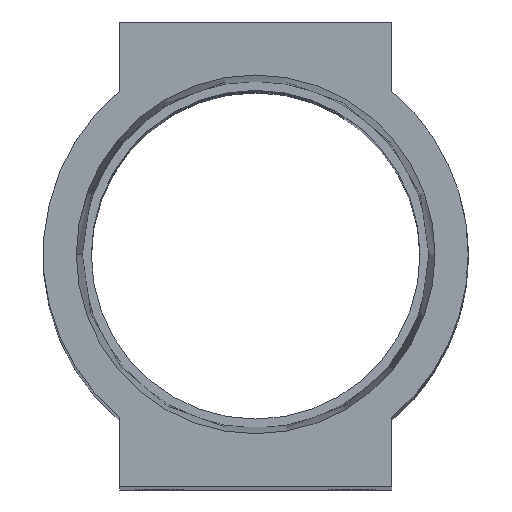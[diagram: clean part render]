
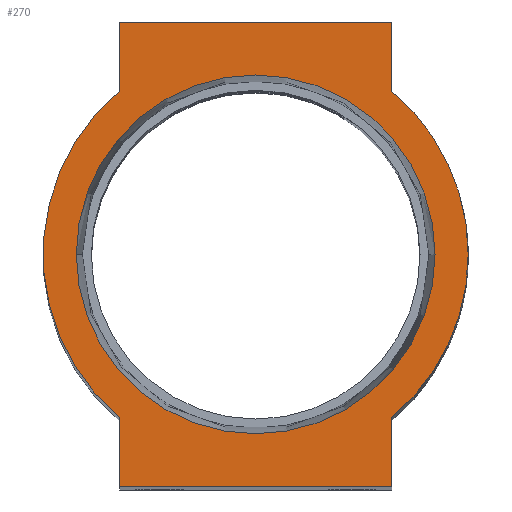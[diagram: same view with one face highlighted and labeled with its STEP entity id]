
A CAD part, top view. The second image highlights one B-rep face of the part: STEP entity #270.
In plain terms, the highlighted planar face has unit normal (0, 0, 1).
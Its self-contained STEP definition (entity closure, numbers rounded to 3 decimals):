
#102 = CARTESIAN_POINT ( 'NONE',  ( -15.827, 0., 0. ) ) ;
#199 = CIRCLE ( 'NONE', #399, 15.827 ) ;
#216 = DIRECTION ( 'NONE',  ( 0., 1., 0. ) ) ;
#270 = ADVANCED_FACE ( 'NONE', ( #11742, #5366 ), #6311, .T. ) ;
#399 = AXIS2_PLACEMENT_3D ( 'NONE', #3234, #8648, #508 ) ;
#474 = CIRCLE ( 'NONE', #10428, 18.75 ) ;
#508 = DIRECTION ( 'NONE',  ( 1., 0., 0. ) ) ;
#560 = VERTEX_POINT ( 'NONE', #3343 ) ;
#636 = CIRCLE ( 'NONE', #6023, 18.75 ) ;
#749 = DIRECTION ( 'NONE',  ( 0., -1., 0. ) ) ;
#781 = DIRECTION ( 'NONE',  ( 1., 0., 0. ) ) ;
#784 = EDGE_CURVE ( 'NONE', #10368, #560, #3948, .T. ) ;
#926 = CARTESIAN_POINT ( 'NONE',  ( -12., 20.5, 0. ) ) ;
#1042 = CIRCLE ( 'NONE', #8319, 18.75 ) ;
#1415 = DIRECTION ( 'NONE',  ( 0., 0., 1. ) ) ;
#1553 = DIRECTION ( 'NONE',  ( 0., -1., 0. ) ) ;
#1640 = DIRECTION ( 'NONE',  ( -1., 0., 0. ) ) ;
#1759 = ORIENTED_EDGE ( 'NONE', *, *, #4911, .T. ) ;
#2046 = CARTESIAN_POINT ( 'NONE',  ( -12., -14.407, 0. ) ) ;
#2213 = EDGE_CURVE ( 'NONE', #8130, #6543, #10503, .T. ) ;
#2218 = CARTESIAN_POINT ( 'NONE',  ( 12., -20.5, 0. ) ) ;
#2301 = ORIENTED_EDGE ( 'NONE', *, *, #10218, .T. ) ;
#2394 = ORIENTED_EDGE ( 'NONE', *, *, #9271, .T. ) ;
#2742 = ORIENTED_EDGE ( 'NONE', *, *, #784, .T. ) ;
#2779 = ORIENTED_EDGE ( 'NONE', *, *, #2851, .F. ) ;
#2851 = EDGE_CURVE ( 'NONE', #6110, #6079, #199, .T. ) ;
#3140 = ORIENTED_EDGE ( 'NONE', *, *, #2213, .T. ) ;
#3175 = CARTESIAN_POINT ( 'NONE',  ( 0., 0., 0. ) ) ;
#3234 = CARTESIAN_POINT ( 'NONE',  ( 0., 0., 0. ) ) ;
#3295 = DIRECTION ( 'NONE',  ( 1., 0., 0. ) ) ;
#3343 = CARTESIAN_POINT ( 'NONE',  ( 12., 20.5, 0. ) ) ;
#3357 = CARTESIAN_POINT ( 'NONE',  ( 0., 0., 0. ) ) ;
#3363 = EDGE_CURVE ( 'NONE', #5377, #7568, #10765, .T. ) ;
#3561 = ORIENTED_EDGE ( 'NONE', *, *, #3363, .T. ) ;
#3647 = CARTESIAN_POINT ( 'NONE',  ( 0., 0., 0. ) ) ;
#3919 = CARTESIAN_POINT ( 'NONE',  ( 12., 14.407, 0. ) ) ;
#3948 = LINE ( 'NONE', #11262, #6705 ) ;
#4045 = VECTOR ( 'NONE', #1553, 1000. ) ;
#4220 = LINE ( 'NONE', #2218, #9079 ) ;
#4284 = CIRCLE ( 'NONE', #4488, 15.827 ) ;
#4411 = CARTESIAN_POINT ( 'NONE',  ( -12., -20.5, 0. ) ) ;
#4488 = AXIS2_PLACEMENT_3D ( 'NONE', #6112, #1415, #5893 ) ;
#4591 = VECTOR ( 'NONE', #1640, 1000. ) ;
#4844 = VERTEX_POINT ( 'NONE', #7951 ) ;
#4911 = EDGE_CURVE ( 'NONE', #7568, #4844, #4220, .T. ) ;
#5366 = FACE_OUTER_BOUND ( 'NONE', #6672, .T. ) ;
#5377 = VERTEX_POINT ( 'NONE', #7927 ) ;
#5436 = VERTEX_POINT ( 'NONE', #2046 ) ;
#5809 = CARTESIAN_POINT ( 'NONE',  ( 12., -20.5, 0. ) ) ;
#5828 = AXIS2_PLACEMENT_3D ( 'NONE', #3357, #8985, #781 ) ;
#5893 = DIRECTION ( 'NONE',  ( 1., 0., 0. ) ) ;
#5936 = LINE ( 'NONE', #8670, #10957 ) ;
#6023 = AXIS2_PLACEMENT_3D ( 'NONE', #9863, #10760, #10100 ) ;
#6079 = VERTEX_POINT ( 'NONE', #6360 ) ;
#6110 = VERTEX_POINT ( 'NONE', #102 ) ;
#6112 = CARTESIAN_POINT ( 'NONE',  ( 0., 0., 0. ) ) ;
#6221 = CARTESIAN_POINT ( 'NONE',  ( 18.75, 0., 0. ) ) ;
#6311 = PLANE ( 'NONE',  #5828 ) ;
#6360 = CARTESIAN_POINT ( 'NONE',  ( 15.827, 0., 0. ) ) ;
#6543 = VERTEX_POINT ( 'NONE', #10408 ) ;
#6672 = EDGE_LOOP ( 'NONE', ( #2742, #2394, #3140, #10695, #9089, #3561, #1759, #2301, #9565 ) ) ;
#6705 = VECTOR ( 'NONE', #216, 1000. ) ;
#6847 = CARTESIAN_POINT ( 'NONE',  ( -12., 20.5, 0. ) ) ;
#6996 = DIRECTION ( 'NONE',  ( 0., 1., 0. ) ) ;
#7253 = ORIENTED_EDGE ( 'NONE', *, *, #8039, .F. ) ;
#7321 = EDGE_CURVE ( 'NONE', #5436, #5377, #5936, .T. ) ;
#7568 = VERTEX_POINT ( 'NONE', #5809 ) ;
#7708 = VECTOR ( 'NONE', #10878, 1000. ) ;
#7927 = CARTESIAN_POINT ( 'NONE',  ( -12., -20.5, 0. ) ) ;
#7951 = CARTESIAN_POINT ( 'NONE',  ( 12., -14.407, 0. ) ) ;
#8039 = EDGE_CURVE ( 'NONE', #6079, #6110, #4284, .T. ) ;
#8130 = VERTEX_POINT ( 'NONE', #926 ) ;
#8319 = AXIS2_PLACEMENT_3D ( 'NONE', #3175, #10459, #3295 ) ;
#8648 = DIRECTION ( 'NONE',  ( 0., 0., 1. ) ) ;
#8670 = CARTESIAN_POINT ( 'NONE',  ( -12., -20.5, 0. ) ) ;
#8706 = EDGE_CURVE ( 'NONE', #6543, #5436, #474, .T. ) ;
#8985 = DIRECTION ( 'NONE',  ( 0., 0., 1. ) ) ;
#9079 = VECTOR ( 'NONE', #6996, 1000. ) ;
#9089 = ORIENTED_EDGE ( 'NONE', *, *, #7321, .T. ) ;
#9176 = DIRECTION ( 'NONE',  ( 0., 0., 1. ) ) ;
#9271 = EDGE_CURVE ( 'NONE', #560, #8130, #10872, .T. ) ;
#9565 = ORIENTED_EDGE ( 'NONE', *, *, #10979, .T. ) ;
#9601 = EDGE_LOOP ( 'NONE', ( #7253, #2779 ) ) ;
#9863 = CARTESIAN_POINT ( 'NONE',  ( 0., 0., 0. ) ) ;
#10100 = DIRECTION ( 'NONE',  ( 1., 0., 0. ) ) ;
#10210 = VERTEX_POINT ( 'NONE', #6221 ) ;
#10218 = EDGE_CURVE ( 'NONE', #4844, #10210, #636, .T. ) ;
#10368 = VERTEX_POINT ( 'NONE', #3919 ) ;
#10408 = CARTESIAN_POINT ( 'NONE',  ( -12., 14.407, 0. ) ) ;
#10428 = AXIS2_PLACEMENT_3D ( 'NONE', #3647, #9176, #10975 ) ;
#10459 = DIRECTION ( 'NONE',  ( 0., 0., 1. ) ) ;
#10503 = LINE ( 'NONE', #6847, #4045 ) ;
#10695 = ORIENTED_EDGE ( 'NONE', *, *, #8706, .T. ) ;
#10755 = CARTESIAN_POINT ( 'NONE',  ( -12., 20.5, 0. ) ) ;
#10760 = DIRECTION ( 'NONE',  ( 0., 0., 1. ) ) ;
#10765 = LINE ( 'NONE', #4411, #7708 ) ;
#10872 = LINE ( 'NONE', #10755, #4591 ) ;
#10878 = DIRECTION ( 'NONE',  ( 1., 0., 0. ) ) ;
#10957 = VECTOR ( 'NONE', #749, 1000. ) ;
#10975 = DIRECTION ( 'NONE',  ( 1., 0., 0. ) ) ;
#10979 = EDGE_CURVE ( 'NONE', #10210, #10368, #1042, .T. ) ;
#11262 = CARTESIAN_POINT ( 'NONE',  ( 12., 20.5, 0. ) ) ;
#11742 = FACE_BOUND ( 'NONE', #9601, .T. ) ;
